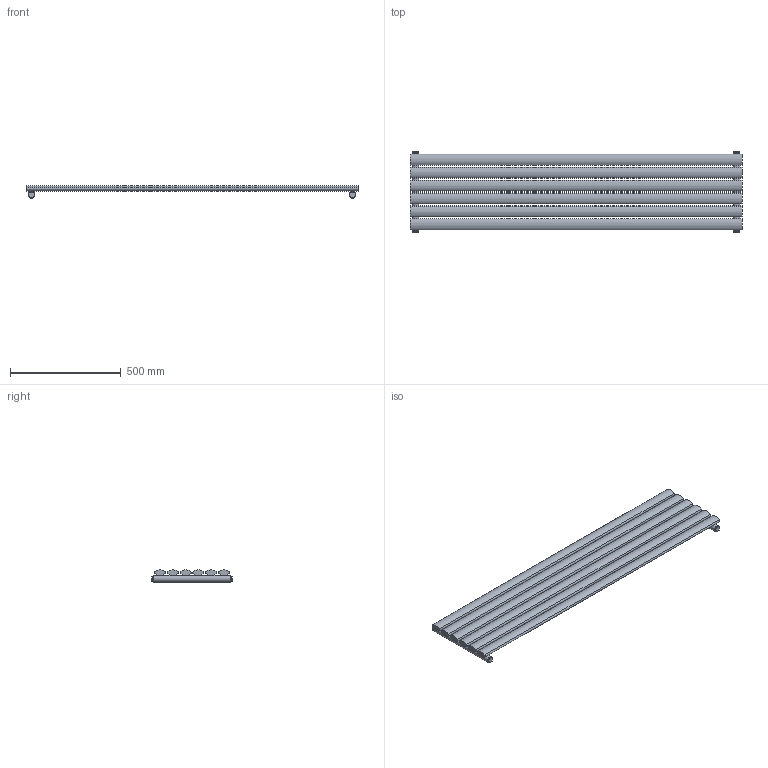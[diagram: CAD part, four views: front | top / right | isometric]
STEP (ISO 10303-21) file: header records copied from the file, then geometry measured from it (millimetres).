
FILE_DESCRIPTION(/* description */ (''),/* implementation_level */ '2;1');
FILE_NAME(/* name */ 'C:\Grzejniki\13DLUXRAD\pokojowe\FORTUNA\FORTUNA POJEDYNCZA 1500x352.iam.stp',/* time_stamp */ '2016-06-28T17:32:10+02:00',/* author */ ('m.szydziak'),/* organization */ (''),/* preprocessor_version */ 'ST-DEVELOPER v16.5',/* originating_system */ 'Autodesk Inventor 2017',/* authorisation */ '');
FILE_SCHEMA (('AUTOMOTIVE_DESIGN { 1 0 10303 214 3 1 1 }'));
Length unit declared in the file: millimetre
Products named in the file (5): FORTUNA POJEDYNCZA 1500x352; %%c30x1,5x352; 50x25x1,2x1500; zaślepka fi30 G0,5inch; korek
Assembly tree (16 placements, depth 2):
  FORTUNA POJEDYNCZA 1500x352
    %%c30x1,5x352  x2
    50x25x1,2x1500  x6
    zaślepka fi30 G0,5inch  x4
    korek  x4
Bounding box: 1500 x 364 x 54.86 mm (x, y, z)
Volume: 8743161.2 mm3; surface area: 1231009.3 mm2
Topology: 16 solids, 16 shells, 132 faces, 328 edges, 228 vertices
Faces by surface type: plane 80, cylinder 52
Full cylindrical faces by diameter (mm): 5 x12, 18.631 x4, 24 x4, 27 x6, 30 x2
Entity records: 1631 total; most frequent: CARTESIAN_POINT 598, DIRECTION 198, ORIENTED_EDGE 150, AXIS2_PLACEMENT_3D 85, EDGE_CURVE 75, EDGE_LOOP 62, VERTEX_POINT 59, FACE_OUTER_BOUND 35
